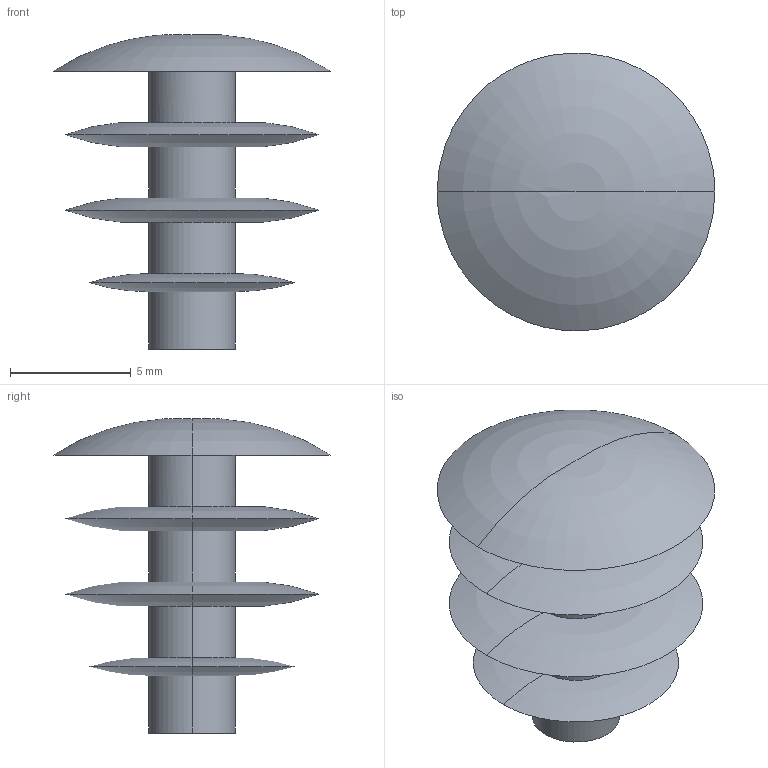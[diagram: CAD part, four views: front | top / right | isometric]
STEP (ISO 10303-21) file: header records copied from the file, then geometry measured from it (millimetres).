
FILE_DESCRIPTION (( 'STEP AP214' ), '1' );
FILE_NAME ('1.1047 Peitetulppa 9.STEP', '2025-09-03T09:02:04', ( '' ), ( '' ), 'SwSTEP 2.0', 'SolidWorks 2025', '' );
FILE_SCHEMA (( 'AUTOMOTIVE_DESIGN' ));
Length unit declared in the file: millimetre
Products named in the file (1): 1.1047 Peitetulppa 9
Bounding box: 11.5 x 11.49 x 13 mm (x, y, z)
Surface area: 722.7 mm2 (no closed solid volume)
Topology: 0 solids, 1 shells, 24 faces, 48 edges, 25 vertices
Faces by surface type: torus 14, cylinder 8, plane 2
Entity records: 976 total; most frequent: CARTESIAN_POINT 578, ORIENTED_EDGE 92, DIRECTION 50, EDGE_CURVE 46, B_SPLINE_CURVE_WITH_KNOTS 46, EDGE_LOOP 25, AXIS2_PLACEMENT_3D 25, VERTEX_POINT 25
